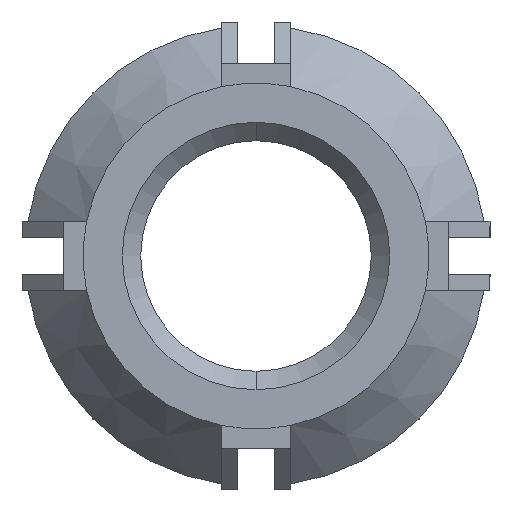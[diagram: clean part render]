
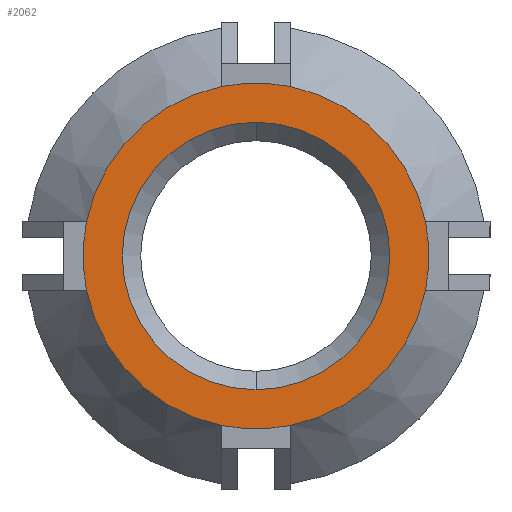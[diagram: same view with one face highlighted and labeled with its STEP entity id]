
A CAD part, front view. The second image highlights one B-rep face of the part: STEP entity #2062.
In plain terms, the highlighted planar face has unit normal (0, -1, 0).
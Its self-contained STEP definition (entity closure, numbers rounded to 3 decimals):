
#104 = DIRECTION ( 'NONE',  ( 0., 0., 1. ) ) ;
#220 = DIRECTION ( 'NONE',  ( 0., -1., 0. ) ) ;
#282 = CARTESIAN_POINT ( 'NONE',  ( -3.674, -10., -0.75 ) ) ;
#286 = VERTEX_POINT ( 'NONE', #282 ) ;
#345 = VERTEX_POINT ( 'NONE', #2198 ) ;
#444 = DIRECTION ( 'NONE',  ( 0., 1., 0. ) ) ;
#455 = DIRECTION ( 'NONE',  ( 0., 0., 1. ) ) ;
#534 = CARTESIAN_POINT ( 'NONE',  ( 0., -10., 0. ) ) ;
#591 = ORIENTED_EDGE ( 'NONE', *, *, #2133, .T. ) ;
#608 = CARTESIAN_POINT ( 'NONE',  ( 0., -10., 0. ) ) ;
#816 = CARTESIAN_POINT ( 'NONE',  ( 0., -10., -2.9 ) ) ;
#935 = EDGE_LOOP ( 'NONE', ( #997, #989 ) ) ;
#981 = CIRCLE ( 'NONE', #1485, 2.9 ) ;
#989 = ORIENTED_EDGE ( 'NONE', *, *, #1145, .T. ) ;
#997 = ORIENTED_EDGE ( 'NONE', *, *, #3432, .T. ) ;
#1027 = DIRECTION ( 'NONE',  ( 0., 0., 1. ) ) ;
#1060 = AXIS2_PLACEMENT_3D ( 'NONE', #3721, #1598, #2622 ) ;
#1115 = DIRECTION ( 'NONE',  ( 0., -1., 0. ) ) ;
#1145 = EDGE_CURVE ( 'NONE', #2357, #2845, #981, .T. ) ;
#1186 = DIRECTION ( 'NONE',  ( 0., -1., 0. ) ) ;
#1201 = ORIENTED_EDGE ( 'NONE', *, *, #2196, .T. ) ;
#1214 = CARTESIAN_POINT ( 'NONE',  ( -0.75, -10., -3.674 ) ) ;
#1246 = DIRECTION ( 'NONE',  ( -1., 0., 0. ) ) ;
#1276 = AXIS2_PLACEMENT_3D ( 'NONE', #2882, #444, #3263 ) ;
#1407 = CARTESIAN_POINT ( 'NONE',  ( 0., -10., 0. ) ) ;
#1411 = ORIENTED_EDGE ( 'NONE', *, *, #2863, .T. ) ;
#1452 = CARTESIAN_POINT ( 'NONE',  ( 0., -10., 0. ) ) ;
#1485 = AXIS2_PLACEMENT_3D ( 'NONE', #608, #4416, #4435 ) ;
#1505 = FACE_BOUND ( 'NONE', #935, .T. ) ;
#1511 = CARTESIAN_POINT ( 'NONE',  ( 0.75, -10., -3.674 ) ) ;
#1526 = DIRECTION ( 'NONE',  ( 0., 0., 1. ) ) ;
#1577 = DIRECTION ( 'NONE',  ( 0., -1., 0. ) ) ;
#1598 = DIRECTION ( 'NONE',  ( 0., -1., 0. ) ) ;
#1633 = VERTEX_POINT ( 'NONE', #1511 ) ;
#1641 = AXIS2_PLACEMENT_3D ( 'NONE', #3683, #2954, #3385 ) ;
#1707 = CIRCLE ( 'NONE', #1060, 3.75 ) ;
#1758 = CARTESIAN_POINT ( 'NONE',  ( 0., -10., 0. ) ) ;
#1872 = VERTEX_POINT ( 'NONE', #2026 ) ;
#1957 = CARTESIAN_POINT ( 'NONE',  ( 3.674, -10., 0.75 ) ) ;
#1976 = ORIENTED_EDGE ( 'NONE', *, *, #2028, .T. ) ;
#2026 = CARTESIAN_POINT ( 'NONE',  ( -3.674, -10., 0.75 ) ) ;
#2028 = EDGE_CURVE ( 'NONE', #1633, #345, #3883, .T. ) ;
#2062 = ADVANCED_FACE ( 'NONE', ( #1505, #3855 ), #3243, .F. ) ;
#2093 = DIRECTION ( 'NONE',  ( 0., -1., 0. ) ) ;
#2133 = EDGE_CURVE ( 'NONE', #286, #3313, #2945, .T. ) ;
#2136 = AXIS2_PLACEMENT_3D ( 'NONE', #3052, #2740, #3397 ) ;
#2178 = DIRECTION ( 'NONE',  ( 0., -1., 0. ) ) ;
#2196 = EDGE_CURVE ( 'NONE', #3717, #2719, #2306, .T. ) ;
#2198 = CARTESIAN_POINT ( 'NONE',  ( 3.674, -10., -0.75 ) ) ;
#2306 = CIRCLE ( 'NONE', #3521, 3.75 ) ;
#2357 = VERTEX_POINT ( 'NONE', #3120 ) ;
#2365 = CIRCLE ( 'NONE', #2136, 3.75 ) ;
#2373 = AXIS2_PLACEMENT_3D ( 'NONE', #4220, #1186, #104 ) ;
#2434 = AXIS2_PLACEMENT_3D ( 'NONE', #4406, #220, #1246 ) ;
#2496 = CARTESIAN_POINT ( 'NONE',  ( 0.75, -10., 3.674 ) ) ;
#2510 = CIRCLE ( 'NONE', #1641, 2.9 ) ;
#2615 = EDGE_CURVE ( 'NONE', #3313, #1633, #2650, .T. ) ;
#2622 = DIRECTION ( 'NONE',  ( 0., 0., 1. ) ) ;
#2650 = CIRCLE ( 'NONE', #2434, 3.75 ) ;
#2672 = ORIENTED_EDGE ( 'NONE', *, *, #3386, .T. ) ;
#2719 = VERTEX_POINT ( 'NONE', #3376 ) ;
#2740 = DIRECTION ( 'NONE',  ( 0., -1., 0. ) ) ;
#2748 = EDGE_CURVE ( 'NONE', #345, #3792, #2365, .T. ) ;
#2845 = VERTEX_POINT ( 'NONE', #816 ) ;
#2863 = EDGE_CURVE ( 'NONE', #1872, #286, #3295, .T. ) ;
#2882 = CARTESIAN_POINT ( 'NONE',  ( 0., -10., 0. ) ) ;
#2937 = AXIS2_PLACEMENT_3D ( 'NONE', #1407, #2093, #1027 ) ;
#2945 = CIRCLE ( 'NONE', #2373, 3.75 ) ;
#2953 = DIRECTION ( 'NONE',  ( 1., 0., 0. ) ) ;
#2954 = DIRECTION ( 'NONE',  ( 0., 1., 0. ) ) ;
#3052 = CARTESIAN_POINT ( 'NONE',  ( 0., -10., 0. ) ) ;
#3101 = EDGE_CURVE ( 'NONE', #3792, #3717, #3875, .T. ) ;
#3120 = CARTESIAN_POINT ( 'NONE',  ( 0., -10., 2.9 ) ) ;
#3211 = ORIENTED_EDGE ( 'NONE', *, *, #2615, .T. ) ;
#3243 = PLANE ( 'NONE',  #1276 ) ;
#3263 = DIRECTION ( 'NONE',  ( 0., 0., 1. ) ) ;
#3295 = CIRCLE ( 'NONE', #4322, 3.75 ) ;
#3313 = VERTEX_POINT ( 'NONE', #1214 ) ;
#3376 = CARTESIAN_POINT ( 'NONE',  ( -0.75, -10., 3.674 ) ) ;
#3385 = DIRECTION ( 'NONE',  ( 0., 0., 1. ) ) ;
#3386 = EDGE_CURVE ( 'NONE', #2719, #1872, #1707, .T. ) ;
#3397 = DIRECTION ( 'NONE',  ( 0., 0., -1. ) ) ;
#3432 = EDGE_CURVE ( 'NONE', #2845, #2357, #2510, .T. ) ;
#3521 = AXIS2_PLACEMENT_3D ( 'NONE', #534, #1577, #2953 ) ;
#3683 = CARTESIAN_POINT ( 'NONE',  ( 0., -10., 0. ) ) ;
#3717 = VERTEX_POINT ( 'NONE', #2496 ) ;
#3721 = CARTESIAN_POINT ( 'NONE',  ( 0., -10., 0. ) ) ;
#3792 = VERTEX_POINT ( 'NONE', #1957 ) ;
#3855 = FACE_OUTER_BOUND ( 'NONE', #4204, .T. ) ;
#3875 = CIRCLE ( 'NONE', #2937, 3.75 ) ;
#3883 = CIRCLE ( 'NONE', #4032, 3.75 ) ;
#4032 = AXIS2_PLACEMENT_3D ( 'NONE', #1452, #1115, #1526 ) ;
#4204 = EDGE_LOOP ( 'NONE', ( #1411, #591, #3211, #1976, #4241, #4393, #1201, #2672 ) ) ;
#4220 = CARTESIAN_POINT ( 'NONE',  ( 0., -10., 0. ) ) ;
#4241 = ORIENTED_EDGE ( 'NONE', *, *, #2748, .T. ) ;
#4322 = AXIS2_PLACEMENT_3D ( 'NONE', #1758, #2178, #455 ) ;
#4393 = ORIENTED_EDGE ( 'NONE', *, *, #3101, .T. ) ;
#4406 = CARTESIAN_POINT ( 'NONE',  ( 0., -10., 0. ) ) ;
#4416 = DIRECTION ( 'NONE',  ( 0., 1., 0. ) ) ;
#4435 = DIRECTION ( 'NONE',  ( 0., 0., 1. ) ) ;
